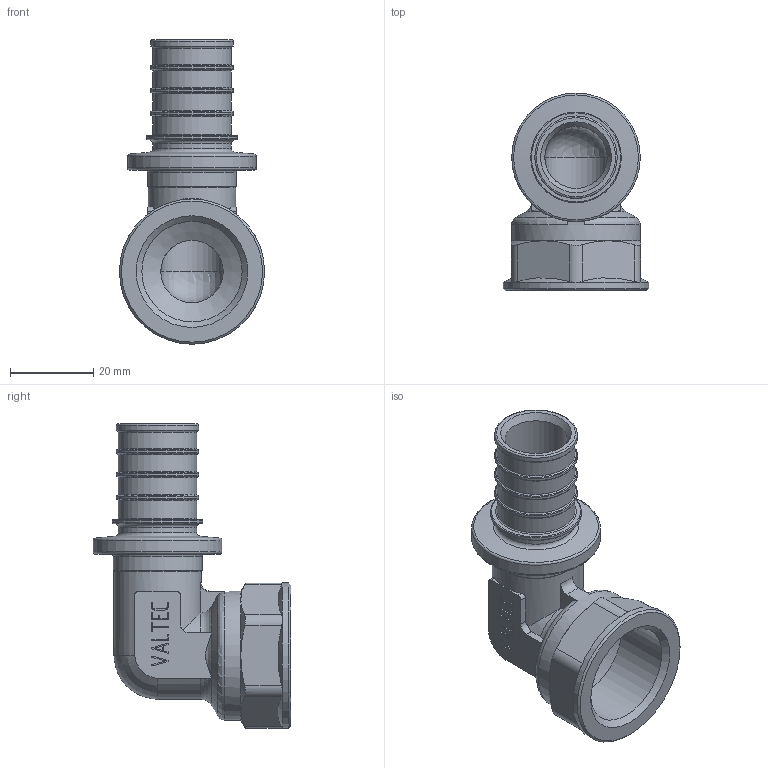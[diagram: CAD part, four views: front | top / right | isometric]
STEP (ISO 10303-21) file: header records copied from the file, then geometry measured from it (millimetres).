
FILE_DESCRIPTION(('STEP AP203'), '1');
FILE_NAME('ÂÐ.752213.010 - VTm.452.G.002505 - Ôèò. àêñ. óãîë', '', ('UNSPECIFIED'), ('UNSPECIFIED'), 'C3D Converter', 'C3D Toolkit', '');
FILE_SCHEMA(('CONFIG_CONTROL_DESIGN'));
Length unit declared in the file: millimetre
Products named in the file (1): ВР.752213.010
Bounding box: 34.9 x 47.45 x 73.15 mm (x, y, z)
Volume: 19209.8 mm3; surface area: 13136.6 mm2
Topology: 1 solids, 1 shells, 348 faces, 944 edges, 613 vertices
Faces by surface type: extrusion 142, plane 121, cylinder 39, torus 30, cone 14, sphere 2
Full cylindrical faces by diameter (mm): 15 x2, 18.8 x5, 19.8 x4, 21 x1, 21.4 x1, 21.8 x1, 24.118 x1, 30.9 x1, 31 x1, 34.9 x1
Entity records: 15306 total; most frequent: CARTESIAN_POINT 4549, ORIENTED_EDGE 1788, DIRECTION 1190, EDGE_CURVE 894, VERTEX_POINT 613, VECTOR 582, B_SPLINE_CURVE_WITH_KNOTS 495, LINE 440
